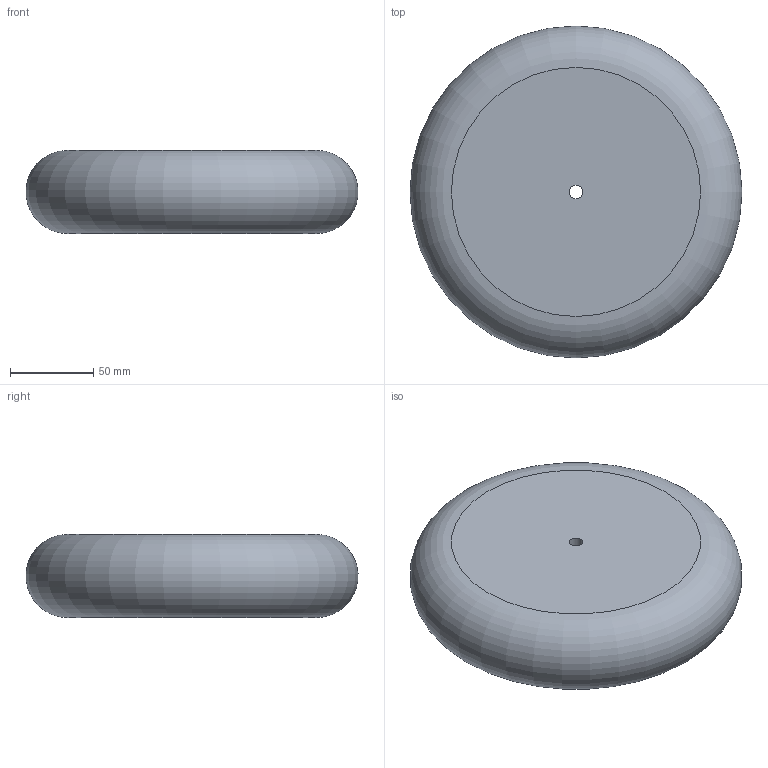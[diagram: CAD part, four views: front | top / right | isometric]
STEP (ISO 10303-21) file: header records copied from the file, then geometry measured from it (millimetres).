
FILE_DESCRIPTION(/* description */ ('STEP AP242','CAx-IF Rec.Pracs.---Representation and Presentation of Product Manufacturing Information (PMI)---4.0---2014-10-13','CAx-IF Rec.Pracs.---3D Tessellated Geometry---0.4---2014-09-14','2;1'),/* implementation_level */ '2;1');
FILE_NAME(/* name */ 'Assembly 1 - Part 1',/* time_stamp */ '2025-05-18T07:24:53Z',/* author */ (''),/* organization */ (''),/* preprocessor_version */ 'ST-DEVELOPER v20',/* originating_system */ 'ONSHAPE BY PTC INC, 1.198',/* authorisation */ ' ');
FILE_SCHEMA (('AP242_MANAGED_MODEL_BASED_3D_ENGINEERING_MIM_LF { 1 0 10303 442 1 1 4 }'));
Length unit declared in the file: metre
Products named in the file (1): Part 1
Bounding box: 199.93 x 199.93 x 50 mm (x, y, z)
Volume: 1409147.2 mm3; surface area: 81364 mm2
Topology: 1 solids, 1 shells, 4 faces, 6 edges, 4 vertices
Faces by surface type: plane 2, torus 1, cylinder 1
Full cylindrical faces by diameter (mm): 8 x1
Entity records: 110 total; most frequent: DIRECTION 18, CARTESIAN_POINT 13, AXIS2_PLACEMENT_3D 9, ORIENTED_EDGE 8, EDGE_LOOP 8, FACE_BOUND 8, EDGE_CURVE 4, VERTEX_POINT 4
